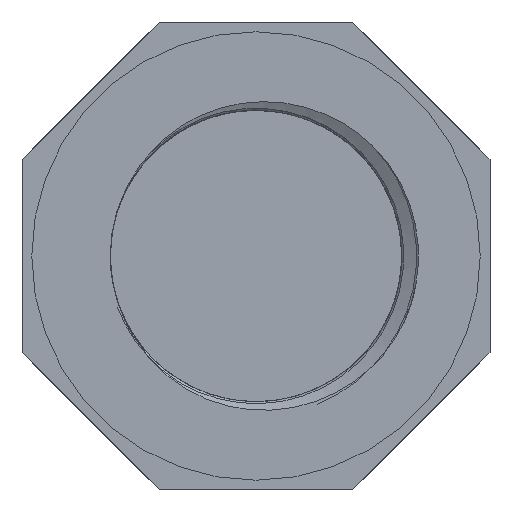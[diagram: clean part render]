
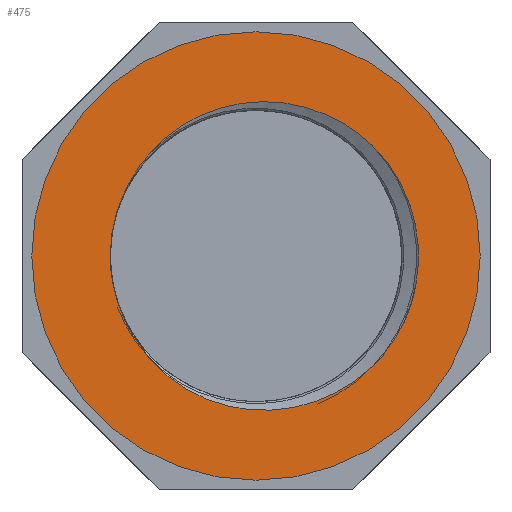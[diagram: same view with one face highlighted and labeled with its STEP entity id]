
A CAD part, front view. The second image highlights one B-rep face of the part: STEP entity #475.
In plain terms, the highlighted planar face has unit normal (0, -1, 0).
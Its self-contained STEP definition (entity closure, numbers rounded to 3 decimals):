
#20=FACE_BOUND('',#178,.T.);
#45=PLANE('',#517);
#144=FACE_OUTER_BOUND('',#177,.T.);
#177=EDGE_LOOP('',(#434));
#178=EDGE_LOOP('',(#435,#436,#437,#438,#439));
#197=CIRCLE('',#518,11.5);
#198=B_SPLINE_CURVE_WITH_KNOTS('',3,(#1284,#1285,#1286,#1287,#1288,#1289,
#1290,#1291,#1292,#1293,#1294,#1295),.UNSPECIFIED.,.F.,.F.,(4,2,2,2,2,4),
(0.,0.208,0.4,0.586,0.713,
0.82),.UNSPECIFIED.);
#201=B_SPLINE_CURVE_WITH_KNOTS('',3,(#1923,#1924,#1925,#1926,#1927,#1928,
#1929,#1930,#1931,#1932,#1933,#1934,#1935),.UNSPECIFIED.,.F.,.F.,(4,3,3,
3,4),(0.,0.406,0.802,1.187,1.282),
 .UNSPECIFIED.);
#203=B_SPLINE_CURVE_WITH_KNOTS('',3,(#2544,#2545,#2546,#2547,#2548,#2549,
#2550,#2551),.UNSPECIFIED.,.F.,.F.,(4,2,2,4),(0.,0.169,0.259,
0.357),.UNSPECIFIED.);
#205=B_SPLINE_CURVE_WITH_KNOTS('',3,(#3091,#3092,#3093,#3094,#3095,#3096,
#3097,#3098,#3099,#3100,#3101,#3102,#3103),.UNSPECIFIED.,.F.,.F.,(4,3,3,
3,4),(0.,0.384,0.778,1.181,1.28),
 .UNSPECIFIED.);
#207=B_SPLINE_CURVE_WITH_KNOTS('',3,(#3770,#3771,#3772,#3773,#3774,#3775),
 .UNSPECIFIED.,.F.,.F.,(4,2,4),(0.,0.291,0.658),
 .UNSPECIFIED.);
#209=VERTEX_POINT('',#1282);
#210=VERTEX_POINT('',#1283);
#213=VERTEX_POINT('',#1922);
#215=VERTEX_POINT('',#2543);
#217=VERTEX_POINT('',#3090);
#249=VERTEX_POINT('',#3922);
#250=EDGE_CURVE('',#209,#210,#198,.T.);
#254=EDGE_CURVE('',#210,#213,#201,.T.);
#257=EDGE_CURVE('',#213,#215,#203,.T.);
#260=EDGE_CURVE('',#217,#209,#205,.T.);
#263=EDGE_CURVE('',#215,#217,#207,.T.);
#313=EDGE_CURVE('',#249,#249,#197,.T.);
#434=ORIENTED_EDGE('',*,*,#313,.F.);
#435=ORIENTED_EDGE('',*,*,#263,.T.);
#436=ORIENTED_EDGE('',*,*,#260,.T.);
#437=ORIENTED_EDGE('',*,*,#250,.T.);
#438=ORIENTED_EDGE('',*,*,#254,.T.);
#439=ORIENTED_EDGE('',*,*,#257,.T.);
#475=ADVANCED_FACE('',(#144,#20),#45,.T.);
#517=AXIS2_PLACEMENT_3D('',#3921,#633,#634);
#518=AXIS2_PLACEMENT_3D('',#3923,#635,#636);
#633=DIRECTION('center_axis',(0.,-1.,0.));
#634=DIRECTION('ref_axis',(0.,0.,-1.));
#635=DIRECTION('center_axis',(0.,1.,0.));
#636=DIRECTION('ref_axis',(1.,0.,0.));
#1282=CARTESIAN_POINT('',(5.948,0.,5.693));
#1283=CARTESIAN_POINT('',(5.948,0.,-5.693));
#1284=CARTESIAN_POINT('Ctrl Pts',(5.948,0.,
5.693));
#1285=CARTESIAN_POINT('Ctrl Pts',(6.452,0.,
5.216));
#1286=CARTESIAN_POINT('Ctrl Pts',(7.082,0.,
4.464));
#1287=CARTESIAN_POINT('Ctrl Pts',(8.022,0.,
2.46));
#1288=CARTESIAN_POINT('Ctrl Pts',(8.278,0.,
1.417));
#1289=CARTESIAN_POINT('Ctrl Pts',(8.37,0.,
-0.673));
#1290=CARTESIAN_POINT('Ctrl Pts',(8.218,0.,
-1.703));
#1291=CARTESIAN_POINT('Ctrl Pts',(7.644,0.,
-3.338));
#1292=CARTESIAN_POINT('Ctrl Pts',(7.324,0.,
-3.968));
#1293=CARTESIAN_POINT('Ctrl Pts',(6.589,0.,
-5.034));
#1294=CARTESIAN_POINT('Ctrl Pts',(6.245,0.,
-5.413));
#1295=CARTESIAN_POINT('Ctrl Pts',(5.948,0.,
-5.693));
#1922=CARTESIAN_POINT('',(-5.471,0.,-5.237));
#1923=CARTESIAN_POINT('Ctrl Pts',(5.948,0.,
-5.693));
#1924=CARTESIAN_POINT('Ctrl Pts',(4.965,0.,
-6.623));
#1925=CARTESIAN_POINT('Ctrl Pts',(3.755,0.,
-7.301));
#1926=CARTESIAN_POINT('Ctrl Pts',(2.454,0.,
-7.647));
#1927=CARTESIAN_POINT('Ctrl Pts',(1.185,0.,
-7.984));
#1928=CARTESIAN_POINT('Ctrl Pts',(-0.173,0.,
-8.003));
#1929=CARTESIAN_POINT('Ctrl Pts',(-1.449,0.,
-7.693));
#1930=CARTESIAN_POINT('Ctrl Pts',(-2.69,0.,
-7.391));
#1931=CARTESIAN_POINT('Ctrl Pts',(-3.862,0.,
-6.776));
#1932=CARTESIAN_POINT('Ctrl Pts',(-4.811,0.,
-5.916));
#1933=CARTESIAN_POINT('Ctrl Pts',(-5.045,0.,
-5.704));
#1934=CARTESIAN_POINT('Ctrl Pts',(-5.265,0.,
-5.477));
#1935=CARTESIAN_POINT('Ctrl Pts',(-5.471,0.,
-5.237));
#2543=CARTESIAN_POINT('',(-7.474,0.,0.));
#2544=CARTESIAN_POINT('Ctrl Pts',(-5.471,0.,
-5.237));
#2545=CARTESIAN_POINT('Ctrl Pts',(-5.838,0.,
-4.81));
#2546=CARTESIAN_POINT('Ctrl Pts',(-6.349,0.,
-4.151));
#2547=CARTESIAN_POINT('Ctrl Pts',(-6.989,0.,
-2.752));
#2548=CARTESIAN_POINT('Ctrl Pts',(-7.162,0.,
-2.243));
#2549=CARTESIAN_POINT('Ctrl Pts',(-7.41,0.,
-1.155));
#2550=CARTESIAN_POINT('Ctrl Pts',(-7.475,0.,
-0.579));
#2551=CARTESIAN_POINT('Ctrl Pts',(-7.475,0.,
0.));
#3090=CARTESIAN_POINT('',(-5.471,0.,5.237));
#3091=CARTESIAN_POINT('Ctrl Pts',(-5.471,0.,
5.237));
#3092=CARTESIAN_POINT('Ctrl Pts',(-4.637,0.,
6.208));
#3093=CARTESIAN_POINT('Ctrl Pts',(-3.558,0.,
6.958));
#3094=CARTESIAN_POINT('Ctrl Pts',(-2.366,0.,
7.409));
#3095=CARTESIAN_POINT('Ctrl Pts',(-1.142,0.,
7.873));
#3096=CARTESIAN_POINT('Ctrl Pts',(0.205,0.,
8.019));
#3097=CARTESIAN_POINT('Ctrl Pts',(1.501,0.,
7.839));
#3098=CARTESIAN_POINT('Ctrl Pts',(2.828,0.,
7.655));
#3099=CARTESIAN_POINT('Ctrl Pts',(4.114,0.,
7.126));
#3100=CARTESIAN_POINT('Ctrl Pts',(5.194,0.,
6.327));
#3101=CARTESIAN_POINT('Ctrl Pts',(5.457,0.,
6.131));
#3102=CARTESIAN_POINT('Ctrl Pts',(5.709,0.,
5.92));
#3103=CARTESIAN_POINT('Ctrl Pts',(5.948,0.,
5.693));
#3770=CARTESIAN_POINT('Ctrl Pts',(-7.475,0.,
0.));
#3771=CARTESIAN_POINT('Ctrl Pts',(-7.475,0.,
0.971));
#3772=CARTESIAN_POINT('Ctrl Pts',(-7.292,0.,
1.932));
#3773=CARTESIAN_POINT('Ctrl Pts',(-6.491,0.,
3.974));
#3774=CARTESIAN_POINT('Ctrl Pts',(-5.874,0.,
4.768));
#3775=CARTESIAN_POINT('Ctrl Pts',(-5.471,0.,
5.237));
#3921=CARTESIAN_POINT('Origin',(-11.5,0.,0.));
#3922=CARTESIAN_POINT('',(-11.5,0.,0.));
#3923=CARTESIAN_POINT('Origin',(0.,0.,0.));
